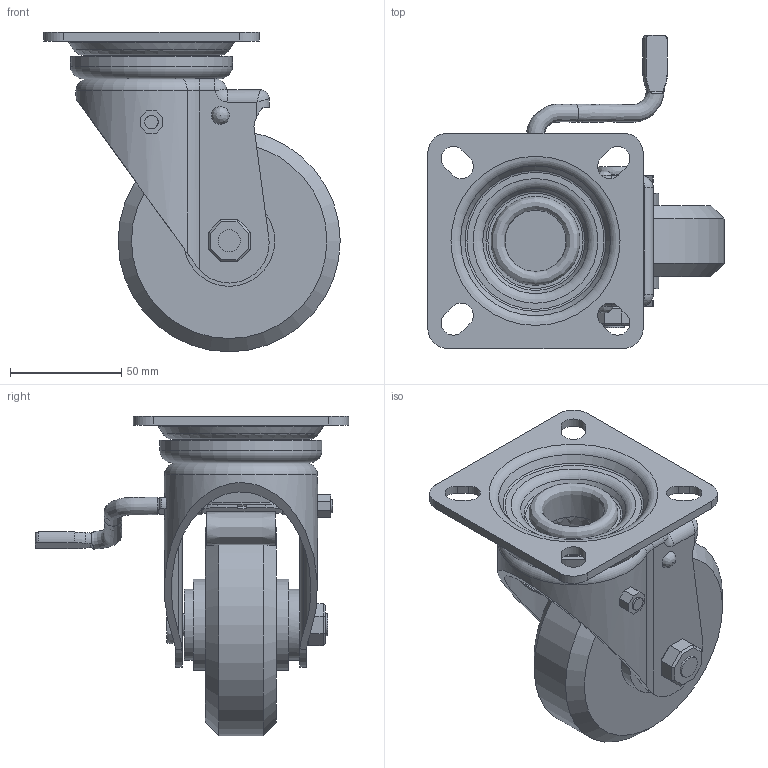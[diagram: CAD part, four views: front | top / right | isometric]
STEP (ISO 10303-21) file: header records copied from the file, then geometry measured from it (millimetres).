
FILE_DESCRIPTION(/* description */ (''),/* implementation_level */ '2;1');
FILE_NAME(/* name */ '25X02_4_F.stp',/* time_stamp */ '2023-03-24T13:08:11+08:00',/* author */ (''),/* organization */ (''),/* preprocessor_version */ 'ST-DEVELOPER v14',/* originating_system */ 'SIEMENS PLM Software NX 8.0',/* authorisation */ '');
FILE_SCHEMA (('AUTOMOTIVE_DESIGN { 1 0 10303 214 3 1 1 1 }'));
Length unit declared in the file: millimetre
Products named in the file (1): 25X02_4_F
Bounding box: 133.5 x 141.1 x 144 mm (x, y, z)
Volume: 383830.2 mm3; surface area: 110739.2 mm2
Topology: 1 solids, 3 shells, 525 faces, 1396 edges, 898 vertices
Faces by surface type: plane 309, cylinder 118, torus 36, bspline 34, cone 11, extrusion 8, sphere 5, revolution 4
Full cylindrical faces by diameter (mm): 6 x3, 6.1 x3, 10 x3, 12 x1, 32 x2, 32.8 x1, 37.5 x1, 41 x2, 43.2 x1, 43.3 x1, 68 x1, 73 x1, 100 x1
Entity records: 20241 total; most frequent: CARTESIAN_POINT 8290, ORIENTED_EDGE 2614, DIRECTION 2163, EDGE_CURVE 1307, VERTEX_POINT 871, AXIS2_PLACEMENT_3D 788, EDGE_LOOP 646, VECTOR 583
